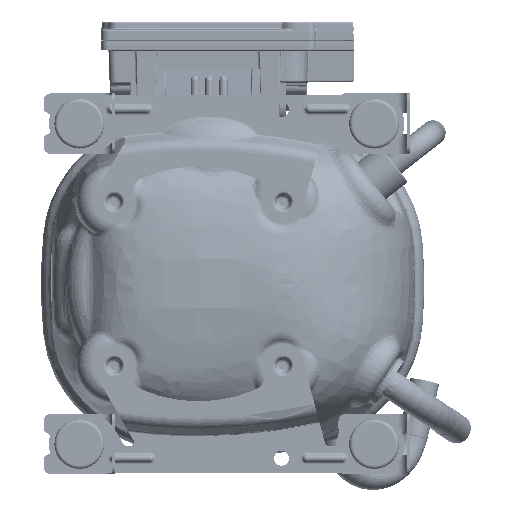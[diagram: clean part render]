
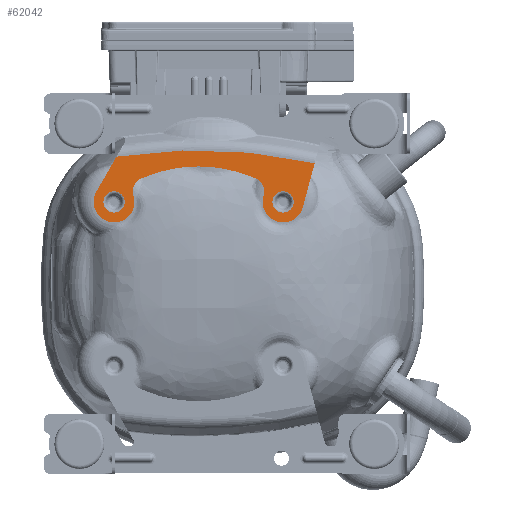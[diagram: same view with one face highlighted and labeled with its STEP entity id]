
A CAD part, front view. The second image highlights one B-rep face of the part: STEP entity #62042.
In plain terms, the highlighted planar face has unit normal (0, -1, 0) as drawn and (-1, 0, 0) by its records, which use the part's own axes.
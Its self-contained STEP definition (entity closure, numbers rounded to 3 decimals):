
#59591=CARTESIAN_POINT('',(-2.5,23.029,36.471));
#59605=CARTESIAN_POINT('',(-2.5,0.,-110.));
#59606=DIRECTION('',(1.,0.,0.));
#59607=DIRECTION('',(0.,0.155,0.988));
#59608=AXIS2_PLACEMENT_3D('',#59605,#59606,#59607);
#59610=DIRECTION('',(0.,0.259,-0.966));
#59611=VECTOR('',#59610,12.824);
#59612=CARTESIAN_POINT('',(-2.5,-32.613,34.639));
#59613=LINE('',#59612,#59611);
#59614=CARTESIAN_POINT('',(-2.5,-23.74,23.74));
#59615=DIRECTION('',(1.,0.,0.));
#59616=DIRECTION('',(0.,-0.966,-0.259));
#59617=AXIS2_PLACEMENT_3D('',#59614,#59615,#59616);
#59619=CARTESIAN_POINT('',(-2.5,-23.74,23.74));
#59620=DIRECTION('',(1.,0.,0.));
#59621=DIRECTION('',(0.,0.,-1.));
#59622=AXIS2_PLACEMENT_3D('',#59619,#59620,#59621);
#59624=CARTESIAN_POINT('',(-2.5,-14.454,26.711));
#59625=DIRECTION('',(-1.,0.,0.));
#59626=DIRECTION('',(0.,-0.952,-0.305));
#59627=AXIS2_PLACEMENT_3D('',#59624,#59625,#59626);
#59629=CARTESIAN_POINT('',(-2.5,0.,-6.26));
#59630=DIRECTION('',(-1.,0.,0.));
#59631=DIRECTION('',(0.,-0.401,0.916));
#59632=AXIS2_PLACEMENT_3D('',#59629,#59630,#59631);
#59634=CARTESIAN_POINT('',(-2.5,0.,-6.26));
#59635=DIRECTION('',(-1.,0.,0.));
#59636=DIRECTION('',(0.,0.,1.));
#59637=AXIS2_PLACEMENT_3D('',#59634,#59635,#59636);
#59639=CARTESIAN_POINT('',(-2.5,14.454,26.711));
#59640=DIRECTION('',(-1.,0.,0.));
#59641=DIRECTION('',(0.,0.401,0.916));
#59642=AXIS2_PLACEMENT_3D('',#59639,#59640,#59641);
#59644=CARTESIAN_POINT('',(-2.5,23.74,23.74));
#59645=DIRECTION('',(1.,0.,0.));
#59646=DIRECTION('',(0.,-0.952,0.305));
#59647=AXIS2_PLACEMENT_3D('',#59644,#59645,#59646);
#59649=CARTESIAN_POINT('',(-2.5,23.74,23.74));
#59650=DIRECTION('',(1.,0.,0.));
#59651=DIRECTION('',(0.,0.,-1.));
#59652=AXIS2_PLACEMENT_3D('',#59649,#59650,#59651);
#59654=DIRECTION('',(0.,-0.5,0.866));
#59655=VECTOR('',#59654,11.381);
#59656=CARTESIAN_POINT('',(-2.5,28.72,26.615));
#59657=LINE('',#59656,#59655);
#59658=CARTESIAN_POINT('',(-2.5,23.74,23.74));
#59659=DIRECTION('',(-1.,0.,0.));
#59660=DIRECTION('',(0.,1.,0.));
#59661=AXIS2_PLACEMENT_3D('',#59658,#59659,#59660);
#59663=CARTESIAN_POINT('',(-2.5,23.74,23.74));
#59664=DIRECTION('',(-1.,0.,0.));
#59665=DIRECTION('',(0.,0.994,-0.108));
#59666=AXIS2_PLACEMENT_3D('',#59663,#59664,#59665);
#59668=CARTESIAN_POINT('',(-2.5,23.74,23.74));
#59669=DIRECTION('',(-1.,0.,0.));
#59670=DIRECTION('',(0.,-1.,0.));
#59671=AXIS2_PLACEMENT_3D('',#59668,#59669,#59670);
#59673=CARTESIAN_POINT('',(-2.5,23.74,23.74));
#59674=DIRECTION('',(-1.,0.,0.));
#59675=DIRECTION('',(0.,-0.994,0.108));
#59676=AXIS2_PLACEMENT_3D('',#59673,#59674,#59675);
#59678=CARTESIAN_POINT('',(-2.5,-23.74,23.74));
#59679=DIRECTION('',(-1.,0.,0.));
#59680=DIRECTION('',(0.,1.,0.));
#59681=AXIS2_PLACEMENT_3D('',#59678,#59679,#59680);
#59683=CARTESIAN_POINT('',(-2.5,-23.74,23.74));
#59684=DIRECTION('',(-1.,0.,0.));
#59685=DIRECTION('',(0.,0.997,-0.076));
#59686=AXIS2_PLACEMENT_3D('',#59683,#59684,#59685);
#59688=CARTESIAN_POINT('',(-2.5,-23.74,23.74));
#59689=DIRECTION('',(-1.,0.,0.));
#59690=DIRECTION('',(0.,-1.,0.));
#59691=AXIS2_PLACEMENT_3D('',#59688,#59689,#59690);
#59693=CARTESIAN_POINT('',(-2.5,-23.74,23.74));
#59694=DIRECTION('',(-1.,0.,0.));
#59695=DIRECTION('',(0.,-0.997,0.076));
#59696=AXIS2_PLACEMENT_3D('',#59693,#59694,#59695);
#60602=CARTESIAN_POINT('',(-2.5,-29.294,22.252));
#60603=VERTEX_POINT('',#60602);
#60604=CARTESIAN_POINT('',(-2.5,-32.613,34.639));
#60605=VERTEX_POINT('',#60604);
#60615=CARTESIAN_POINT('',(-2.5,-18.263,25.492));
#60616=VERTEX_POINT('',#60615);
#60617=CARTESIAN_POINT('',(-2.5,-23.74,17.99));
#60618=VERTEX_POINT('',#60617);
#60619=CARTESIAN_POINT('',(-2.5,-16.06,30.375));
#60620=VERTEX_POINT('',#60619);
#60621=CARTESIAN_POINT('',(-2.5,16.06,30.375));
#60622=VERTEX_POINT('',#60621);
#60623=CARTESIAN_POINT('',(-2.5,0.,33.74));
#60624=VERTEX_POINT('',#60623);
#60625=CARTESIAN_POINT('',(-2.5,18.263,25.492));
#60626=VERTEX_POINT('',#60625);
#60627=CARTESIAN_POINT('',(-2.5,28.72,26.615));
#60628=VERTEX_POINT('',#60627);
#60629=CARTESIAN_POINT('',(-2.5,23.74,17.99));
#60630=VERTEX_POINT('',#60629);
#60636=VERTEX_POINT('',#59591);
#60794=CARTESIAN_POINT('',(-2.5,26.726,23.74));
#60795=CARTESIAN_POINT('',(-2.5,26.708,23.419));
#60796=VERTEX_POINT('',#60794);
#60797=VERTEX_POINT('',#60795);
#60798=CARTESIAN_POINT('',(-2.5,20.754,23.74));
#60799=VERTEX_POINT('',#60798);
#60800=CARTESIAN_POINT('',(-2.5,20.772,24.061));
#60801=VERTEX_POINT('',#60800);
#60802=CARTESIAN_POINT('',(-2.5,-20.754,23.74));
#60803=CARTESIAN_POINT('',(-2.5,-20.763,23.514));
#60804=VERTEX_POINT('',#60802);
#60805=VERTEX_POINT('',#60803);
#60806=CARTESIAN_POINT('',(-2.5,-26.726,23.74));
#60807=VERTEX_POINT('',#60806);
#60808=CARTESIAN_POINT('',(-2.5,-26.717,23.966));
#60809=VERTEX_POINT('',#60808);
#62004=CARTESIAN_POINT('',(-2.5,0.,0.));
#62005=DIRECTION('',(-1.,0.,0.));
#62006=DIRECTION('',(0.,0.,1.));
#62007=AXIS2_PLACEMENT_3D('',#62004,#62005,#62006);
#62008=PLANE('',#62007);
#62009=ORIENTED_EDGE('',*,*,#61996,.T.);
#62010=ORIENTED_EDGE('',*,*,#61154,.T.);
#62011=ORIENTED_EDGE('',*,*,#61185,.T.);
#62012=ORIENTED_EDGE('',*,*,#61183,.T.);
#62013=ORIENTED_EDGE('',*,*,#61199,.T.);
#62014=ORIENTED_EDGE('',*,*,#61216,.T.);
#62015=ORIENTED_EDGE('',*,*,#61214,.T.);
#62016=ORIENTED_EDGE('',*,*,#61230,.T.);
#62017=ORIENTED_EDGE('',*,*,#61248,.T.);
#62018=ORIENTED_EDGE('',*,*,#61246,.T.);
#62019=ORIENTED_EDGE('',*,*,#61271,.T.);
#62020=EDGE_LOOP('',(#62009,#62010,#62011,#62012,#62013,#62014,#62015,#62016,
#62017,#62018,#62019));
#62021=FACE_OUTER_BOUND('',#62020,.F.);
#62023=ORIENTED_EDGE('',*,*,#62022,.T.);
#62025=ORIENTED_EDGE('',*,*,#62024,.T.);
#62027=ORIENTED_EDGE('',*,*,#62026,.T.);
#62029=ORIENTED_EDGE('',*,*,#62028,.T.);
#62030=EDGE_LOOP('',(#62023,#62025,#62027,#62029));
#62031=FACE_BOUND('',#62030,.F.);
#62033=ORIENTED_EDGE('',*,*,#62032,.T.);
#62035=ORIENTED_EDGE('',*,*,#62034,.T.);
#62037=ORIENTED_EDGE('',*,*,#62036,.T.);
#62039=ORIENTED_EDGE('',*,*,#62038,.T.);
#62040=EDGE_LOOP('',(#62033,#62035,#62037,#62039));
#62041=FACE_BOUND('',#62040,.F.);
#62042=ADVANCED_FACE('',(#62021,#62031,#62041),#62008,.T.);
#59609=CIRCLE('',#59608,148.27);
#59618=CIRCLE('',#59617,5.75);
#59623=CIRCLE('',#59622,5.75);
#59628=CIRCLE('',#59627,4.);
#59633=CIRCLE('',#59632,40.);
#59638=CIRCLE('',#59637,40.);
#59643=CIRCLE('',#59642,4.);
#59648=CIRCLE('',#59647,5.75);
#59653=CIRCLE('',#59652,5.75);
#59662=CIRCLE('',#59661,2.986);
#59667=CIRCLE('',#59666,2.986);
#59672=CIRCLE('',#59671,2.986);
#59677=CIRCLE('',#59676,2.986);
#59682=CIRCLE('',#59681,2.986);
#59687=CIRCLE('',#59686,2.986);
#59692=CIRCLE('',#59691,2.986);
#59697=CIRCLE('',#59696,2.986);
#61154=EDGE_CURVE('',#60605,#60603,#59613,.T.);
#61183=EDGE_CURVE('',#60618,#60616,#59623,.T.);
#61185=EDGE_CURVE('',#60603,#60618,#59618,.T.);
#61199=EDGE_CURVE('',#60616,#60620,#59628,.T.);
#61214=EDGE_CURVE('',#60624,#60622,#59638,.T.);
#61216=EDGE_CURVE('',#60620,#60624,#59633,.T.);
#61230=EDGE_CURVE('',#60622,#60626,#59643,.T.);
#61246=EDGE_CURVE('',#60630,#60628,#59653,.T.);
#61248=EDGE_CURVE('',#60626,#60630,#59648,.T.);
#61271=EDGE_CURVE('',#60628,#60636,#59657,.T.);
#61996=EDGE_CURVE('',#60636,#60605,#59609,.T.);
#62022=EDGE_CURVE('',#60796,#60797,#59662,.T.);
#62024=EDGE_CURVE('',#60797,#60799,#59667,.T.);
#62026=EDGE_CURVE('',#60799,#60801,#59672,.T.);
#62028=EDGE_CURVE('',#60801,#60796,#59677,.T.);
#62032=EDGE_CURVE('',#60804,#60805,#59682,.T.);
#62034=EDGE_CURVE('',#60805,#60807,#59687,.T.);
#62036=EDGE_CURVE('',#60807,#60809,#59692,.T.);
#62038=EDGE_CURVE('',#60809,#60804,#59697,.T.);
